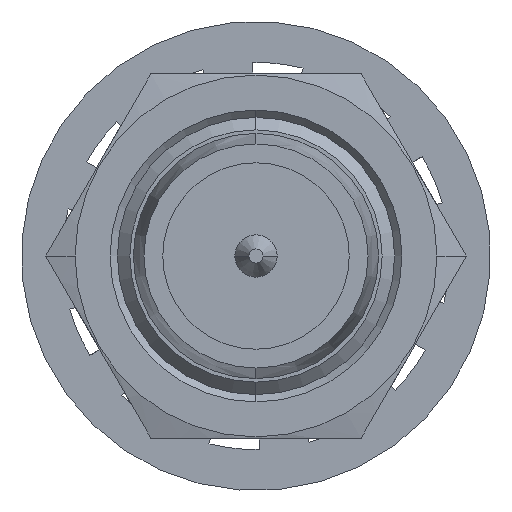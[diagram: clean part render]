
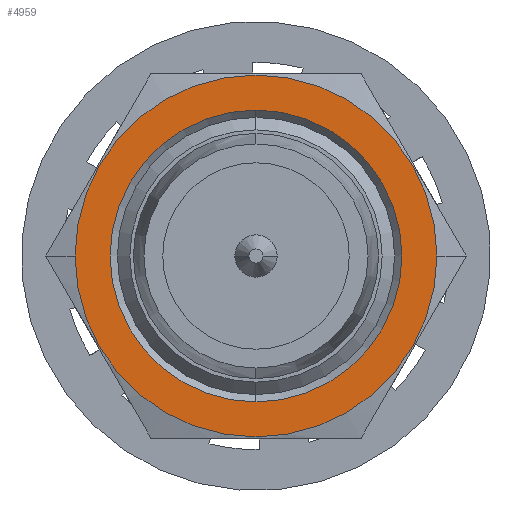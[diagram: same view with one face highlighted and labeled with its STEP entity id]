
A CAD part, left-side view. The second image highlights one B-rep face of the part: STEP entity #4959.
In plain terms, the highlighted planar face has unit normal (-1, 0, 0).
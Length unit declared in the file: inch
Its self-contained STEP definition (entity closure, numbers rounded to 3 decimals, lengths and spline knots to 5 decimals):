
#56 = CIRCLE ( 'NONE', #4534, 0.125 ) ;
#130 = FACE_OUTER_BOUND ( 'NONE', #5838, .T. ) ;
#550 = EDGE_CURVE ( 'NONE', #4050, #5292, #4432, .T. ) ;
#646 = DIRECTION ( 'NONE',  ( 1., 0., 0. ) ) ;
#754 = DIRECTION ( 'NONE',  ( 1., 0., 0. ) ) ;
#793 = DIRECTION ( 'NONE',  ( 0., 0., 1. ) ) ;
#821 = CARTESIAN_POINT ( 'NONE',  ( 0.242, 0.2702, -0.156 ) ) ;
#1045 = CIRCLE ( 'NONE', #5154, 0.125 ) ;
#1261 = DIRECTION ( 'NONE',  ( 0., 0., 1. ) ) ;
#1478 = ORIENTED_EDGE ( 'NONE', *, *, #550, .F. ) ;
#1562 = AXIS2_PLACEMENT_3D ( 'NONE', #2579, #5717, #3048 ) ;
#2228 = AXIS2_PLACEMENT_3D ( 'NONE', #821, #3982, #1261 ) ;
#2285 = CARTESIAN_POINT ( 'NONE',  ( 0.242, -0.155, 0. ) ) ;
#2385 = CARTESIAN_POINT ( 'NONE',  ( 0.242, 0., 0. ) ) ;
#2417 = FACE_BOUND ( 'NONE', #4126, .T. ) ;
#2530 = EDGE_CURVE ( 'NONE', #3461, #5599, #56, .T. ) ;
#2537 = DIRECTION ( 'NONE',  ( 0., 0., 1. ) ) ;
#2579 = CARTESIAN_POINT ( 'NONE',  ( 0.242, 0., 0. ) ) ;
#2643 = AXIS2_PLACEMENT_3D ( 'NONE', #3145, #646, #4568 ) ;
#3048 = DIRECTION ( 'NONE',  ( 0., 1., 0. ) ) ;
#3140 = CARTESIAN_POINT ( 'NONE',  ( 0.242, 0.155, 0. ) ) ;
#3145 = CARTESIAN_POINT ( 'NONE',  ( 0.242, 0., 0. ) ) ;
#3377 = ORIENTED_EDGE ( 'NONE', *, *, #4727, .T. ) ;
#3461 = VERTEX_POINT ( 'NONE', #5421 ) ;
#3558 = ORIENTED_EDGE ( 'NONE', *, *, #5519, .F. ) ;
#3982 = DIRECTION ( 'NONE',  ( -1., 0., 0. ) ) ;
#4050 = VERTEX_POINT ( 'NONE', #3140 ) ;
#4126 = EDGE_LOOP ( 'NONE', ( #3377, #5142 ) ) ;
#4431 = CARTESIAN_POINT ( 'NONE',  ( 0.242, 0., 0. ) ) ;
#4432 = CIRCLE ( 'NONE', #2643, 0.155 ) ;
#4534 = AXIS2_PLACEMENT_3D ( 'NONE', #2385, #754, #793 ) ;
#4568 = DIRECTION ( 'NONE',  ( 0., 1., 0. ) ) ;
#4727 = EDGE_CURVE ( 'NONE', #5599, #3461, #1045, .T. ) ;
#4959 = ADVANCED_FACE ( 'NONE', ( #2417, #130 ), #5423, .T. ) ;
#5055 = CIRCLE ( 'NONE', #1562, 0.155 ) ;
#5142 = ORIENTED_EDGE ( 'NONE', *, *, #2530, .T. ) ;
#5154 = AXIS2_PLACEMENT_3D ( 'NONE', #4431, #5809, #2537 ) ;
#5292 = VERTEX_POINT ( 'NONE', #2285 ) ;
#5421 = CARTESIAN_POINT ( 'NONE',  ( 0.242, 0., -0.125 ) ) ;
#5423 = PLANE ( 'NONE',  #2228 ) ;
#5519 = EDGE_CURVE ( 'NONE', #5292, #4050, #5055, .T. ) ;
#5599 = VERTEX_POINT ( 'NONE', #5754 ) ;
#5717 = DIRECTION ( 'NONE',  ( 1., 0., 0. ) ) ;
#5754 = CARTESIAN_POINT ( 'NONE',  ( 0.242, 0., 0.125 ) ) ;
#5809 = DIRECTION ( 'NONE',  ( 1., 0., 0. ) ) ;
#5838 = EDGE_LOOP ( 'NONE', ( #1478, #3558 ) ) ;
